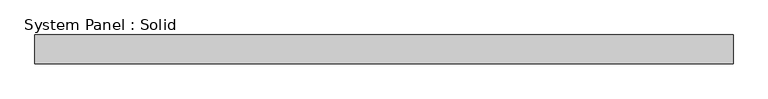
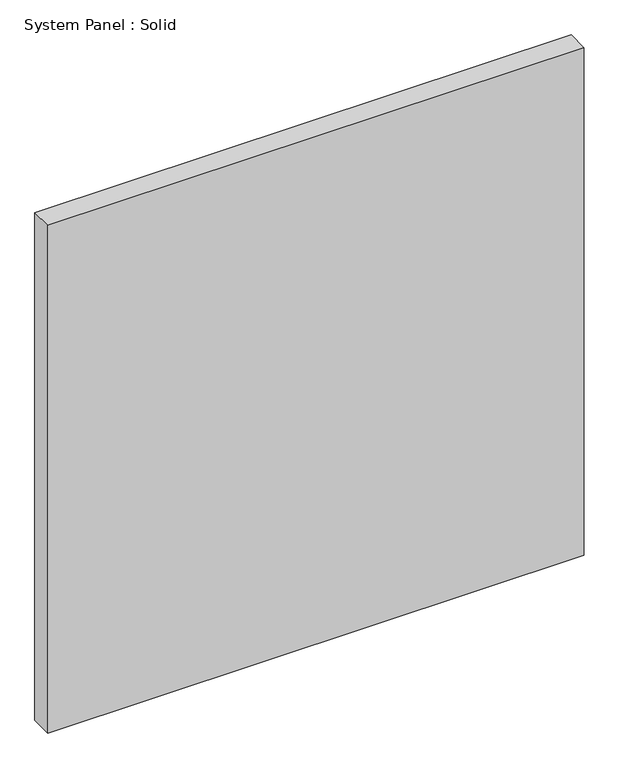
"""IFC4 building model written with IfcOpenShell, lengths in millimetres: plate geometry, System Panel : Solid."""

from ifc_helpers import new_model, si_unit, origin, origin_with_axes, place, context, project, spatial, polyline, outline, extrude, source, transform, mapped, element, save


def system_panel_solid_49e066f7(model_context):
    return source(origin(), model_context, "Body", "SweptSolid", [
        extrude(outline(polyline([(724.5000002, -10.5), (-724.5000002, -10.5), (-724.5000002, 49.5), (724.5000002, 49.5), (724.5000002, -10.5)])), origin_with_axes(), (0.0, 0.0, 1.0), 1449.0),
    ])


if __name__ == "__main__":
    model = new_model("IFC4")
    model_context = context("Model", 3, world=origin())
    ifc_project = project(units=[si_unit("LENGTHUNIT", "METRE", prefix="MILLI")], contexts=[model_context])
    site = spatial("IfcSite", under=ifc_project)
    building = spatial("IfcBuilding", under=site)
    placement = place(None, origin())
    system_panel_solid_shape = system_panel_solid_49e066f7(model_context)
    element("IfcPlate", 1, ObjectType="System Panel : Solid", at=placement, inside=building, context=model_context, shape_type="MappedRepresentation", body=[
        mapped(system_panel_solid_shape, transform((0.0, 0.0, 0.0), x_axis=(1.0, 0.0, 0.0), y_axis=(0.0, 1.0, 0.0), z_axis=(0.0, 0.0, 1.0))),
    ])
    save(model, "model.ifc")
